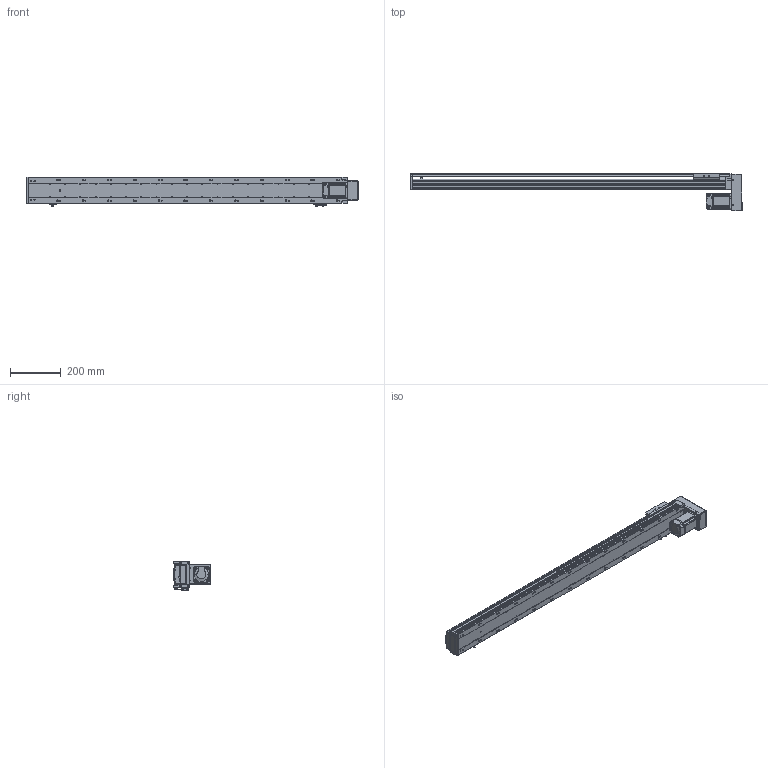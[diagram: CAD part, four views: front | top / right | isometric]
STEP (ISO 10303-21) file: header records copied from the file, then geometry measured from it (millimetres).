
FILE_DESCRIPTION (( 'STEP AP203' ), '1' );
FILE_NAME ('RY100S-L1620-950-BK(15双轨).SLDASM_1050.step', '2021-03-12T06:41:45', ( '盈信电脑' ), ( '东莞市道滘镇水果街19号' ), 'SwSTEP 2.0', 'SolidWorks 2012', '' );
FILE_SCHEMA (( 'CONFIG_CONTROL_DESIGN' ));
Products named in the file (15): RY100S-L1620-950-BK(15邧寢).SLDASM_1050; RY100S-狟殏萇儂傷-BK(15邧寢)_350; RY100S狟殏萇儂欶(15邧寢); RY100S下折电机安装板（15双轨）; RY100綴裔啣; 1; 侂狟200W萇儂; 滅袉蝶18-24; RY100俋离覜茼え; 滅袉蝶18-10; RY100S转折电机端支撑座(15双轨); 覜茼ん672; RY100S-950-RK转折型材底座(15双轨)_1050; RY100S-950-RK转折型材上盖(15双轨)_1050; RY100S铝滑块（15双轨单滑块）
Assembly tree (17 placements, depth 4):
  RY100S-L1620-950-BK(15邧寢).SLDASM_1050
    RY100S-950-RK转折型材底座(15双轨)_1050
    RY100S-950-RK转折型材上盖(15双轨)_1050
    RY100S铝滑块（15双轨单滑块）
    覜茼ん672  x3
    滅袉蝶18-10  x2
    RY100俋离覜茼え
    RY100S转折电机端支撑座(15双轨)
    滅袉蝶18-24
    RY100綴裔啣
    RY100S-狟殏萇儂傷-BK(15邧寢)_350
      侂狟200W萇儂
        1
      RY100S下折电机安装板（15双轨）
      RY100S狟殏萇儂欶(15邧寢)
Bounding box: 1307 x 147 x 117.2 mm (x, y, z)
Volume: 2527258.1 mm3; surface area: 1106423.7 mm2
Topology: 15 solids, 15 shells, 2507 faces, 7072 edges, 4596 vertices
Faces by surface type: plane 1290, cylinder 992, cone 137, bspline 88
Entity records: 83269 total; most frequent: CARTESIAN_POINT 21520, ORIENTED_EDGE 12952, DIRECTION 12045, EDGE_CURVE 6476, VERTEX_POINT 4264, AXIS2_PLACEMENT_3D 4068, VECTOR 3909, LINE 3909
